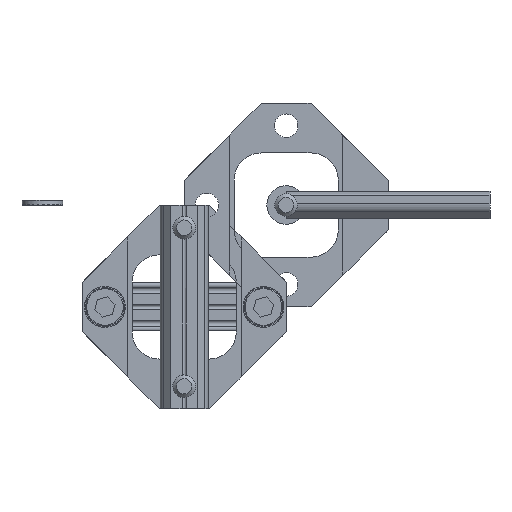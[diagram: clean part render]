
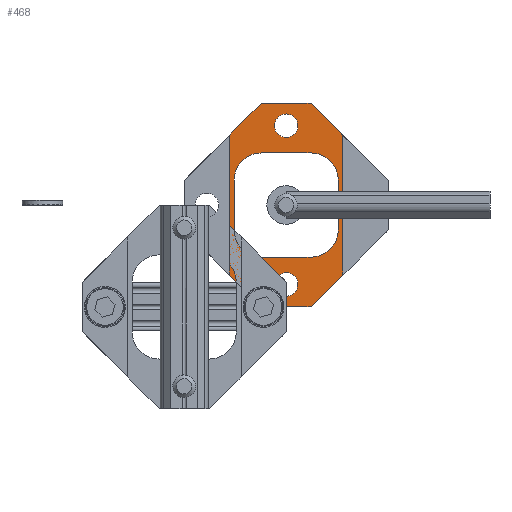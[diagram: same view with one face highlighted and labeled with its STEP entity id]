
A CAD part, front view. The second image highlights one B-rep face of the part: STEP entity #468.
In plain terms, the highlighted planar face has unit normal (0, -1, 0).
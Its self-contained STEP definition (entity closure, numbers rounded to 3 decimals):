
#468 = ADVANCED_FACE( '', ( #1088, #1089, #1090, #1091 ), #1092, .F. );
#1088 = FACE_BOUND( '', #1868, .T. );
#1089 = FACE_BOUND( '', #1869, .T. );
#1090 = FACE_OUTER_BOUND( '', #1870, .T. );
#1091 = FACE_BOUND( '', #1871, .T. );
#1092 = PLANE( '', #1872 );
#1868 = EDGE_LOOP( '', ( #3499, #3500, #3501, #3502, #3503, #3504, #3505, #3506 ) );
#1869 = EDGE_LOOP( '', ( #3507 ) );
#1870 = EDGE_LOOP( '', ( #3508, #3509, #3510, #3511, #3512, #3513, #3514, #3515 ) );
#1871 = EDGE_LOOP( '', ( #3516 ) );
#1872 = AXIS2_PLACEMENT_3D( '', #3517, #3518, #3519 );
#3499 = ORIENTED_EDGE( '', *, *, #5429, .T. );
#3500 = ORIENTED_EDGE( '', *, *, #4845, .T. );
#3501 = ORIENTED_EDGE( '', *, *, #5430, .T. );
#3502 = ORIENTED_EDGE( '', *, *, #5431, .T. );
#3503 = ORIENTED_EDGE( '', *, *, #4832, .T. );
#3504 = ORIENTED_EDGE( '', *, *, #5432, .T. );
#3505 = ORIENTED_EDGE( '', *, *, #5433, .T. );
#3506 = ORIENTED_EDGE( '', *, *, #5434, .T. );
#3507 = ORIENTED_EDGE( '', *, *, #5435, .F. );
#3508 = ORIENTED_EDGE( '', *, *, #5436, .T. );
#3509 = ORIENTED_EDGE( '', *, *, #5403, .F. );
#3510 = ORIENTED_EDGE( '', *, *, #5437, .T. );
#3511 = ORIENTED_EDGE( '', *, *, #5438, .T. );
#3512 = ORIENTED_EDGE( '', *, *, #4997, .T. );
#3513 = ORIENTED_EDGE( '', *, *, #5439, .T. );
#3514 = ORIENTED_EDGE( '', *, *, #5440, .T. );
#3515 = ORIENTED_EDGE( '', *, *, #5024, .F. );
#3516 = ORIENTED_EDGE( '', *, *, #5441, .F. );
#3517 = CARTESIAN_POINT( '', ( 12.55, 2., -41.5 ) );
#3518 = DIRECTION( '', ( 0., 1., 0. ) );
#3519 = DIRECTION( '', ( -1., 0., 0. ) );
#4832 = EDGE_CURVE( '', #5867, #5865, #5868, .T. );
#4845 = EDGE_CURVE( '', #5889, #5890, #5891, .T. );
#4997 = EDGE_CURVE( '', #6156, #6154, #6157, .F. );
#5024 = EDGE_CURVE( '', #6200, #6202, #6203, .T. );
#5403 = EDGE_CURVE( '', #6814, #6816, #6817, .T. );
#5429 = EDGE_CURVE( '', #6854, #5889, #6855, .T. );
#5430 = EDGE_CURVE( '', #5890, #6856, #6857, .T. );
#5431 = EDGE_CURVE( '', #6856, #5867, #6858, .T. );
#5432 = EDGE_CURVE( '', #5865, #6859, #6860, .T. );
#5433 = EDGE_CURVE( '', #6859, #6861, #6862, .T. );
#5434 = EDGE_CURVE( '', #6861, #6854, #6863, .T. );
#5435 = EDGE_CURVE( '', #6864, #6864, #6865, .T. );
#5436 = EDGE_CURVE( '', #6200, #6816, #6866, .F. );
#5437 = EDGE_CURVE( '', #6814, #6867, #6868, .F. );
#5438 = EDGE_CURVE( '', #6867, #6156, #6869, .T. );
#5439 = EDGE_CURVE( '', #6154, #6870, #6871, .T. );
#5440 = EDGE_CURVE( '', #6870, #6202, #6872, .F. );
#5441 = EDGE_CURVE( '', #6873, #6873, #6874, .T. );
#5865 = VERTEX_POINT( '', #7537 );
#5867 = VERTEX_POINT( '', #7540 );
#5868 = LINE( '', #7541, #7542 );
#5889 = VERTEX_POINT( '', #7572 );
#5890 = VERTEX_POINT( '', #7573 );
#5891 = CIRCLE( '', #7574, 6. );
#6154 = VERTEX_POINT( '', #7937 );
#6156 = VERTEX_POINT( '', #7940 );
#6157 = LINE( '', #7941, #7942 );
#6200 = VERTEX_POINT( '', #7996 );
#6202 = VERTEX_POINT( '', #7999 );
#6203 = LINE( '', #8000, #8001 );
#6814 = VERTEX_POINT( '', #8790 );
#6816 = VERTEX_POINT( '', #8793 );
#6817 = LINE( '', #8794, #8795 );
#6854 = VERTEX_POINT( '', #8875 );
#6855 = LINE( '', #8876, #8877 );
#6856 = VERTEX_POINT( '', #8878 );
#6857 = LINE( '', #8879, #8880 );
#6858 = CIRCLE( '', #8881, 6. );
#6859 = VERTEX_POINT( '', #8882 );
#6860 = CIRCLE( '', #8883, 6. );
#6861 = VERTEX_POINT( '', #8884 );
#6862 = LINE( '', #8885, #8886 );
#6863 = CIRCLE( '', #8887, 6. );
#6864 = VERTEX_POINT( '', #8888 );
#6865 = CIRCLE( '', #8889, 2.6 );
#6866 = LINE( '', #8890, #8891 );
#6867 = VERTEX_POINT( '', #8892 );
#6868 = LINE( '', #8893, #8894 );
#6869 = LINE( '', #8895, #8896 );
#6870 = VERTEX_POINT( '', #8897 );
#6871 = LINE( '', #8898, #8899 );
#6872 = LINE( '', #8900, #8901 );
#6873 = VERTEX_POINT( '', #8902 );
#6874 = CIRCLE( '', #8903, 2.6 );
#7537 = CARTESIAN_POINT( '', ( -11.5, 2., 5.5 ) );
#7540 = CARTESIAN_POINT( '', ( -11.5, 2., -5.5 ) );
#7541 = CARTESIAN_POINT( '', ( -11.5, 2., -41.5 ) );
#7542 = VECTOR( '', #9461, 1000. );
#7572 = CARTESIAN_POINT( '', ( 11.5, 2., -5.5 ) );
#7573 = CARTESIAN_POINT( '', ( 5.5, 2., -11.5 ) );
#7574 = AXIS2_PLACEMENT_3D( '', #9471, #9472, #9473 );
#7937 = CARTESIAN_POINT( '', ( 5.5, 2., 22.5 ) );
#7940 = CARTESIAN_POINT( '', ( 12.55, 2., 15.45 ) );
#7941 = CARTESIAN_POINT( '', ( 22.5, 2., 5.5 ) );
#7942 = VECTOR( '', #9632, 1000. );
#7996 = CARTESIAN_POINT( '', ( -12.55, 2., -15.45 ) );
#7999 = CARTESIAN_POINT( '', ( -12.55, 2., 15.45 ) );
#8000 = CARTESIAN_POINT( '', ( -12.55, 2., -41.5 ) );
#8001 = VECTOR( '', #9669, 1000. );
#8790 = CARTESIAN_POINT( '', ( 5.5, 2., -22.5 ) );
#8793 = CARTESIAN_POINT( '', ( -5.5, 2., -22.5 ) );
#8794 = CARTESIAN_POINT( '', ( 22.5, 2., -22.5 ) );
#8795 = VECTOR( '', #10350, 1000. );
#8875 = CARTESIAN_POINT( '', ( 11.5, 2., 5.5 ) );
#8876 = CARTESIAN_POINT( '', ( 11.5, 2., -41.5 ) );
#8877 = VECTOR( '', #10376, 1000. );
#8878 = CARTESIAN_POINT( '', ( -5.5, 2., -11.5 ) );
#8879 = CARTESIAN_POINT( '', ( 12.55, 2., -11.5 ) );
#8880 = VECTOR( '', #10377, 1000. );
#8881 = AXIS2_PLACEMENT_3D( '', #10378, #10379, #10380 );
#8882 = CARTESIAN_POINT( '', ( -5.5, 2., 11.5 ) );
#8883 = AXIS2_PLACEMENT_3D( '', #10381, #10382, #10383 );
#8884 = CARTESIAN_POINT( '', ( 5.5, 2., 11.5 ) );
#8885 = CARTESIAN_POINT( '', ( 12.55, 2., 11.5 ) );
#8886 = VECTOR( '', #10384, 1000. );
#8887 = AXIS2_PLACEMENT_3D( '', #10385, #10386, #10387 );
#8888 = CARTESIAN_POINT( '', ( 2.6, 2., -17.5 ) );
#8889 = AXIS2_PLACEMENT_3D( '', #10388, #10389, #10390 );
#8890 = CARTESIAN_POINT( '', ( -22.5, 2., -5.5 ) );
#8891 = VECTOR( '', #10391, 1000. );
#8892 = CARTESIAN_POINT( '', ( 12.55, 2., -15.45 ) );
#8893 = CARTESIAN_POINT( '', ( 5.5, 2., -22.5 ) );
#8894 = VECTOR( '', #10392, 1000. );
#8895 = CARTESIAN_POINT( '', ( 12.55, 2., -41.5 ) );
#8896 = VECTOR( '', #10393, 1000. );
#8897 = CARTESIAN_POINT( '', ( -5.5, 2., 22.5 ) );
#8898 = CARTESIAN_POINT( '', ( 12.55, 2., 22.5 ) );
#8899 = VECTOR( '', #10394, 1000. );
#8900 = CARTESIAN_POINT( '', ( -5.5, 2., 22.5 ) );
#8901 = VECTOR( '', #10395, 1000. );
#8902 = CARTESIAN_POINT( '', ( 2.6, 2., 17.5 ) );
#8903 = AXIS2_PLACEMENT_3D( '', #10396, #10397, #10398 );
#9461 = DIRECTION( '', ( 0., 0., 1. ) );
#9471 = CARTESIAN_POINT( '', ( 5.5, 2., -5.5 ) );
#9472 = DIRECTION( '', ( 0., 1., 0. ) );
#9473 = DIRECTION( '', ( -1., 0., 0. ) );
#9632 = DIRECTION( '', ( 0.707, 0., -0.707 ) );
#9669 = DIRECTION( '', ( 0., 0., 1. ) );
#10350 = DIRECTION( '', ( -1., 0., 0. ) );
#10376 = DIRECTION( '', ( 0., 0., -1. ) );
#10377 = DIRECTION( '', ( -1., 0., 0. ) );
#10378 = CARTESIAN_POINT( '', ( -5.5, 2., -5.5 ) );
#10379 = DIRECTION( '', ( 0., 1., 0. ) );
#10380 = DIRECTION( '', ( -1., 0., 0. ) );
#10381 = CARTESIAN_POINT( '', ( -5.5, 2., 5.5 ) );
#10382 = DIRECTION( '', ( 0., 1., 0. ) );
#10383 = DIRECTION( '', ( -1., 0., 0. ) );
#10384 = DIRECTION( '', ( 1., 0., 0. ) );
#10385 = CARTESIAN_POINT( '', ( 5.5, 2., 5.5 ) );
#10386 = DIRECTION( '', ( 0., 1., 0. ) );
#10387 = DIRECTION( '', ( -1., 0., 0. ) );
#10388 = CARTESIAN_POINT( '', ( 0., 2., -17.5 ) );
#10389 = DIRECTION( '', ( 0., -1., 0. ) );
#10390 = DIRECTION( '', ( 1., 0., 0. ) );
#10391 = DIRECTION( '', ( -0.707, 0., 0.707 ) );
#10392 = DIRECTION( '', ( -0.707, 0., -0.707 ) );
#10393 = DIRECTION( '', ( 0., 0., 1. ) );
#10394 = DIRECTION( '', ( -1., 0., 0. ) );
#10395 = DIRECTION( '', ( 0.707, 0., 0.707 ) );
#10396 = CARTESIAN_POINT( '', ( 0., 2., 17.5 ) );
#10397 = DIRECTION( '', ( 0., -1., 0. ) );
#10398 = DIRECTION( '', ( 1., 0., 0. ) );
